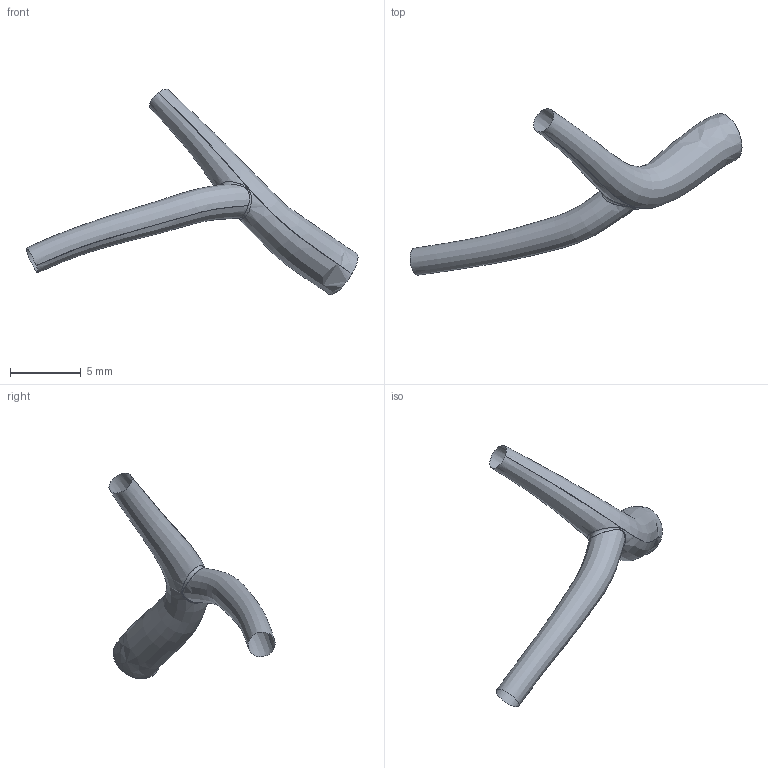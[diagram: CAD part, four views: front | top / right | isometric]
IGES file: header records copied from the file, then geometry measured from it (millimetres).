
Global section: file name: C:\Documents and Settings\Administrator\Desktop\FDA Bifurcation win\RawData_for_IGES\HRCA_Data\19990219.135207\IGES\19990219.135207.PDA.BIFUR.ED.igs; native system: Rhinoceros ( May 19 2006 ); preprocessor: Trout Lake IGES 012 May 19 2006; date: 100728.195716; units: centimetre
Bounding box: 23.41 x 11.72 x 14.5 mm (x, y, z)
Surface area: 278.2 mm2 (no closed solid volume)
Topology: 0 solids, 0 shells, 3 faces, 52 edges, 47 vertices
Faces by surface type: bspline 3
